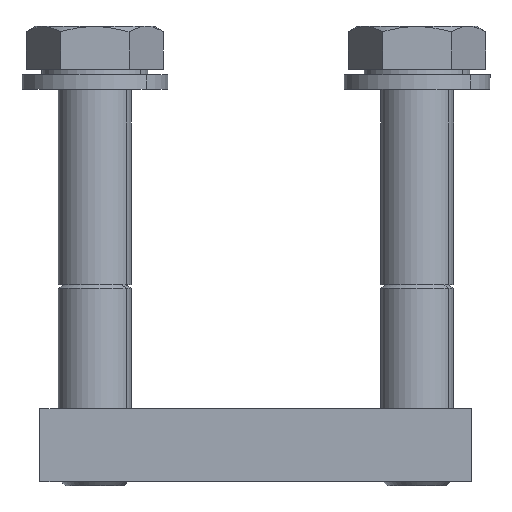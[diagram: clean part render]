
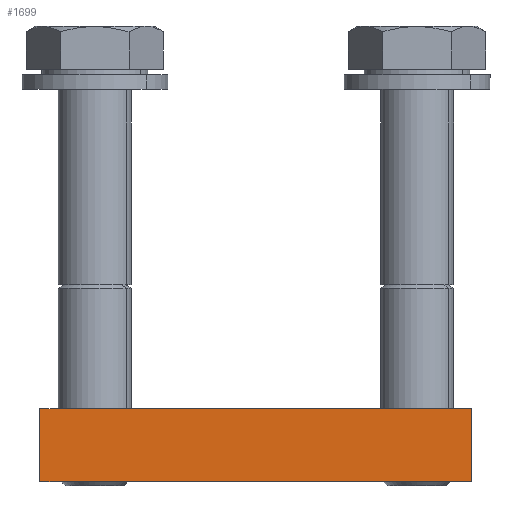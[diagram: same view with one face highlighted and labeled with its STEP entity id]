
A CAD part, front view. The second image highlights one B-rep face of the part: STEP entity #1699.
In plain terms, the highlighted planar face has unit normal (0, -1, 0).
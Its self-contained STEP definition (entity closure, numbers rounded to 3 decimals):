
#1581=CARTESIAN_POINT('',(47.3,0.0,-8.0));
#1582=VERTEX_POINT('',#1581);
#1599=CARTESIAN_POINT('',(47.3,0.0,0.0));
#1600=VERTEX_POINT('',#1599);
#1607=CARTESIAN_POINT('',(47.3,0.0,0.0));
#1608=DIRECTION('',(0.0,0.0,-1.0));
#1609=VECTOR('',#1608,8.0);
#1610=LINE('',#1607,#1609);
#1611=EDGE_CURVE('',#1600,#1582,#1610,.T.);
#1652=CARTESIAN_POINT('',(0.0,0.0,-8.0));
#1653=VERTEX_POINT('',#1652);
#1660=CARTESIAN_POINT('',(0.0,0.0,0.0));
#1661=VERTEX_POINT('',#1660);
#1662=CARTESIAN_POINT('',(0.0,0.0,0.0));
#1663=DIRECTION('',(0.0,0.0,-1.0));
#1664=VECTOR('',#1663,8.0);
#1665=LINE('',#1662,#1664);
#1666=EDGE_CURVE('',#1661,#1653,#1665,.T.);
#1678=CARTESIAN_POINT('',(0.0,0.0,0.0));
#1679=DIRECTION('',(0.0,-1.0,0.0));
#1680=DIRECTION('',(0.0,0.0,-1.0));
#1681=AXIS2_PLACEMENT_3D('',#1678,#1679,#1680);
#1682=PLANE('',#1681);
#1683=CARTESIAN_POINT('',(0.0,0.0,-8.0));
#1684=DIRECTION('',(1.0,0.0,0.0));
#1685=VECTOR('',#1684,47.3);
#1686=LINE('',#1683,#1685);
#1687=EDGE_CURVE('',#1653,#1582,#1686,.T.);
#1688=ORIENTED_EDGE('',*,*,#1687,.T.);
#1689=ORIENTED_EDGE('',*,*,#1611,.F.);
#1690=CARTESIAN_POINT('',(0.0,0.0,0.0));
#1691=DIRECTION('',(1.0,0.0,0.0));
#1692=VECTOR('',#1691,47.3);
#1693=LINE('',#1690,#1692);
#1694=EDGE_CURVE('',#1661,#1600,#1693,.T.);
#1695=ORIENTED_EDGE('',*,*,#1694,.F.);
#1696=ORIENTED_EDGE('',*,*,#1666,.T.);
#1697=EDGE_LOOP('',(#1688,#1689,#1695,#1696));
#1698=FACE_OUTER_BOUND('',#1697,.T.);
#1699=ADVANCED_FACE('',(#1698),#1682,.T.);
